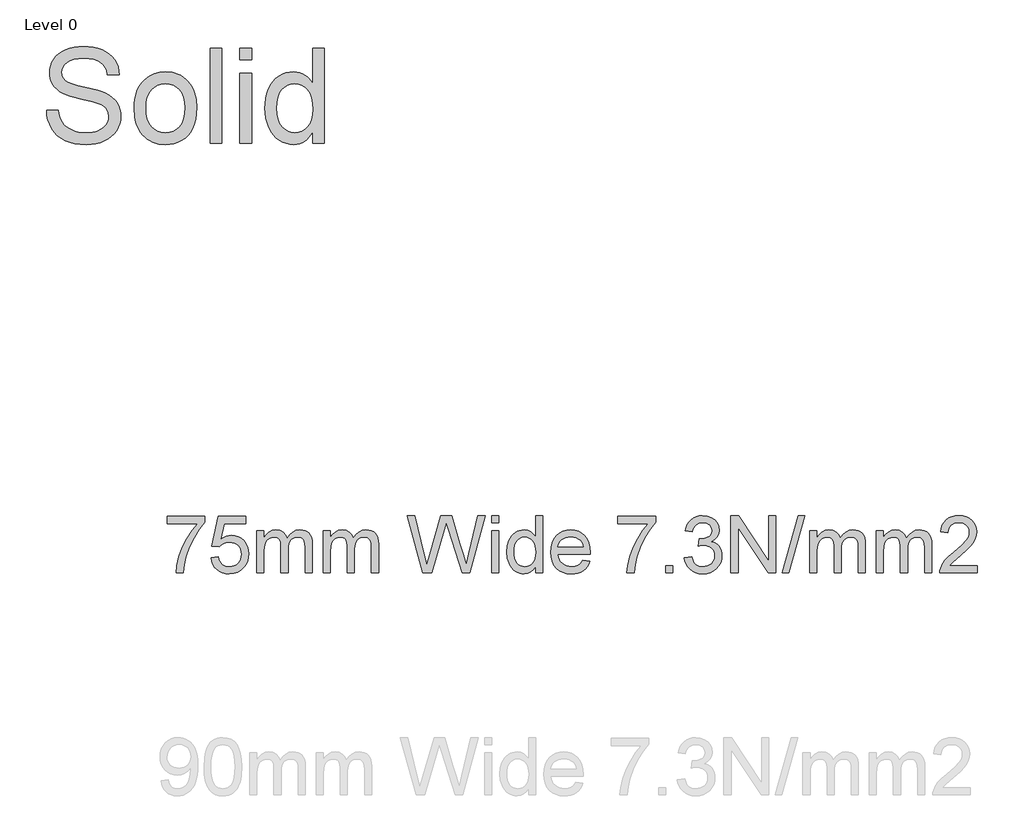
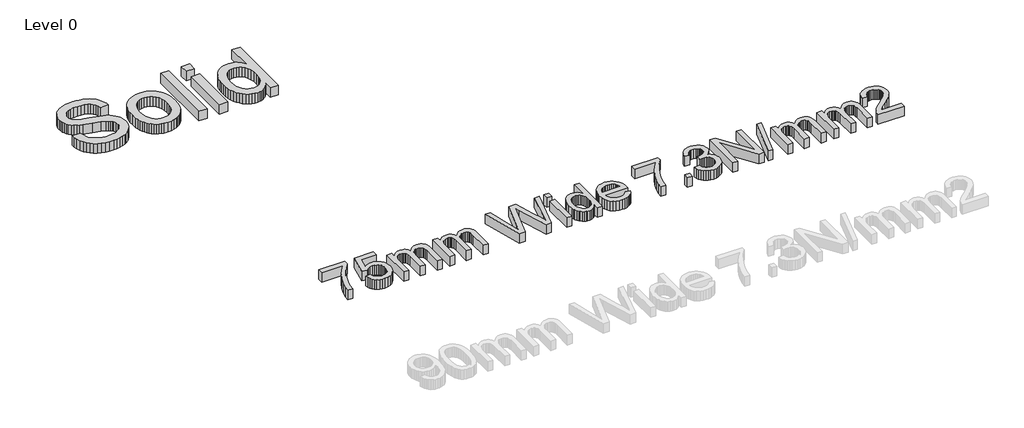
# One storey, part 7 of 14: 2 proxies.
"""IFC4 building model written with IfcOpenShell, lengths in millimetres."""

from ifc_helpers import new_model, si_unit, origin, origin_with_axes, place, context, project, spatial, polyline, outline, extrude, element, save

model = new_model("IFC4")

# Units and contexts
model_context = context("Model", 3, world=origin())
ifc_project = project(units=[si_unit("LENGTHUNIT", "METRE", prefix="MILLI")], contexts=[model_context])

# Site, building, storey
site = spatial("IfcSite", under=ifc_project)
building = spatial("IfcBuilding", under=site)
storey = spatial("IfcBuildingStorey", under=building, Name="Level 0", Elevation=0.0)

# Proxies
placement = place(None, origin())
element("IfcBuildingElementProxy", 1, Name="1000", ObjectType="1000", at=placement, inside=storey, context=model_context, shape_type="SweptSolid", body=[
    extrude(outline(polyline([(-39081.2208533, 24466.8068295), (-38958.7966109, 24466.8068295), (-38953.1924738, 24431.1719899), (-38944.7489073, 24398.8697438), (-38933.4659113, 24369.9000912), (-38919.3434859, 24344.2630322), (-38901.6643014, 24321.442986), (-38879.7110285, 24300.9243721), (-38853.483667, 24282.7071906), (-38822.9822169, 24266.7914413), (-38789.3275057, 24253.8720373), (-38753.6403609, 24244.6438916), (-38715.9207823, 24239.1070041), (-38676.1687699, 24237.261375), (-38607.9626857, 24242.8505677), (-38577.0427934, 24249.8370586), (-38548.245001, 24259.6181458), (-38522.2791659, 24271.8426368), (-38499.8551454, 24286.159339), (-38480.9729396, 24302.5682524), (-38465.6325484, 24321.0693769), (-38453.7592499, 24340.863189), (-38445.2783225, 24361.1501652), (-38440.189766, 24381.9303055), (-38438.4935806, 24403.2036098), (-38443.5746648, 24444.1810601), (-38458.8179177, 24479.5992064), (-38471.6401833, 24495.3132068), (-38489.7826431, 24509.8167135), (-38513.2452969, 24523.1097267), (-38542.0281449, 24535.1922462), (-38606.6774702, 24554.4107003), (-38720.284537, 24581.9382216), (-38837.2989191, 24612.8730582), (-38880.0024436, 24627.7800628), (-38912.1701904, 24642.3134583), (-38944.86099, 24661.8158553), (-38973.113313, 24683.5001297), (-38996.9271595, 24707.3662815), (-39016.3025294, 24733.4143106), (-39031.3141446, 24761.3752185), (-39042.0367269, 24790.9800066), (-39048.4702762, 24822.2286749), (-39050.6147927, 24855.1212235), (-39047.9621678, 24891.5780032), (-39040.0042931, 24926.8242893), (-39026.7411687, 24960.8600818), (-39008.1727946, 24993.6853807), (-38984.5083918, 25023.9626652), (-38955.9571814, 25050.3544148), (-38922.5191635, 25072.8606292), (-38884.1943381, 25091.4813087), (-38842.2753928, 25106.0744816), (-38798.0550152, 25116.4981766), (-38751.5332053, 25122.7523936), (-38702.7099631, 25124.8371326), (-38649.4482444, 25122.6552552), (-38599.4145086, 25116.1096231), (-38552.6087557, 25105.2002363), (-38509.0309859, 25089.9270947), (-38469.4881947, 25070.4246977), (-38434.7873779, 25046.8275445), (-38404.9285356, 25019.1356352), (-38379.9116677, 24987.3489697), (-38359.931051, 24952.3940987), (-38345.1809622, 24915.1975729), (-38335.6614013, 24875.7593923), (-38331.3723684, 24834.0795568), (-38453.7966109, 24834.0795568), (-38461.9861232, 24873.1441283), (-38476.2729366, 24907.1276155), (-38496.6570512, 24936.0300185), (-38523.1384669, 24959.8513371), (-38556.2103478, 24978.4720166), (-38596.365858, 24991.7725019), (-38643.6049975, 24999.7527931), (-38697.9277662, 25002.4128901), (-38753.9840813, 24999.7826818), (-38801.8807728, 24991.8920568), (-38841.6178407, 24978.7410151), (-38873.1952851, 24960.3295568), (-38897.2557136, 24938.1969515), (-38914.441734, 24913.8824687), (-38924.7533462, 24887.3861087), (-38928.1905503, 24858.7078712), (-38925.7546187, 24834.0347237), (-38918.4468239, 24811.6630085), (-38906.267166, 24791.5927256), (-38889.2156449, 24773.823875), (-38862.3755645, 24756.9965194), (-38820.1128987, 24739.9898314), (-38762.4276478, 24722.8038111), (-38689.3198116, 24705.4384583), (-38554.3423021, 24672.6206316), (-38506.8491085, 24657.7808766), (-38472.6862889, 24643.9872273), (-38435.1535149, 24623.0800599), (-38402.8961019, 24599.5725729), (-38375.9140499, 24573.4647663), (-38354.207359, 24544.7566401), (-38337.5219748, 24513.597638), (-38325.6038433, 24480.1372036), (-38318.4529644, 24444.3753369), (-38316.0693381, 24406.3120379), (-38318.8116292, 24368.0171012), (-38327.0385024, 24330.8429919), (-38340.7499578, 24294.7897101), (-38359.9459953, 24259.8572557), (-38384.2903668, 24227.3980937), (-38413.4468239, 24198.7646894), (-38447.4153668, 24173.9570426), (-38486.1959953, 24152.9751534), (-38528.66041, 24136.2897693), (-38573.6803111, 24124.3716378), (-38621.2556988, 24117.2207589), (-38671.386573, 24114.8371326), (-38734.0109367, 24117.4075634), (-38791.3300507, 24125.118856), (-38843.343915, 24137.9710104), (-38890.0525294, 24155.9640265), (-38931.7398371, 24179.1277931), (-38968.6897808, 24207.4921988), (-39000.9023607, 24241.0572438), (-39028.3775768, 24279.822928), (-39050.5101821, 24322.5339247), (-39066.69493, 24367.9349072), (-39076.9318204, 24416.0258755), (-39081.2208533, 24466.8068295)])), origin_with_axes(), (0.0, 0.0, 1.0), 150.0),
    extrude(outline(polyline([(-38178.3420654, 24489.761375), (-38176.6869769, 24537.9457455), (-38171.7217115, 24582.9096053), (-38163.4462691, 24624.6529544), (-38151.8606497, 24663.1757926), (-38136.9648533, 24698.4781201), (-38118.75888, 24730.5599368), (-38097.2427298, 24759.4212427), (-38072.4164025, 24785.0620379), (-38025.7600933, 24819.8973539), (-37974.2618097, 24844.7797225), (-37917.9215517, 24859.7091437), (-37856.7393192, 24864.6856174), (-37789.1982592, 24858.6256772), (-37757.8543205, 24851.0507519), (-37728.1281094, 24840.4458565), (-37700.0196259, 24826.810991), (-37673.52887, 24810.1461554), (-37648.6558416, 24790.4513497), (-37625.4005408, 24767.7265738), (-37604.3570061, 24742.3304927), (-37586.119276, 24714.6217709), (-37570.6873505, 24684.6004086), (-37558.0612297, 24652.2664058), (-37548.2409135, 24617.6197623), (-37541.2264019, 24580.6604783), (-37535.6147927, 24499.8039886), (-37538.0955574, 24434.2729458), (-37545.5378514, 24376.1244195), (-37557.9416748, 24325.3584098), (-37575.3070275, 24281.9749167), (-37597.4172163, 24244.5019201), (-37624.0555479, 24211.4674001), (-37655.2220222, 24182.8713566), (-37690.9166393, 24158.7137898), (-37729.7495731, 24139.5177522), (-37770.3309977, 24125.8062969), (-37812.6609131, 24117.5794236), (-37856.7393192, 24114.8371326), (-37925.2667073, 24120.8746562), (-37956.9468942, 24128.4215608), (-37986.904743, 24138.9872273), (-38015.1402536, 24152.5716555), (-38041.6534261, 24169.1748456), (-38066.4442604, 24188.7967976), (-38089.5127567, 24211.4375113), (-38110.3321259, 24236.9176546), (-38128.3755793, 24265.0578949), (-38143.6431167, 24295.8582322), (-38156.1347382, 24329.3186667), (-38165.8504439, 24365.4391981), (-38172.7902336, 24404.2198267), (-38178.3420654, 24489.761375)]), holes=[polyline([(-38055.917823, 24490.0004848), (-38052.3760083, 24430.6190484), (-38041.7505645, 24379.2029588), (-38024.0414913, 24335.752216), (-37999.2487889, 24300.2668201), (-37969.0910592, 24272.7019378), (-37935.2869044, 24253.0127363), (-37897.8363244, 24241.1992153), (-37856.7393192, 24237.261375), (-37815.8515351, 24241.2216319), (-37778.5503987, 24253.1024024), (-37744.8359101, 24272.9036868), (-37714.7080692, 24300.6254848), (-37689.9153668, 24336.4620734), (-37672.2062936, 24380.6077292), (-37661.5808497, 24433.0624522), (-37658.0390351, 24493.8262424), (-37661.6032663, 24551.3246888), (-37672.2959598, 24601.3957855), (-37690.1171157, 24644.0395325), (-37715.066734, 24679.2559299), (-37745.3066576, 24706.8208121), (-37778.9987297, 24726.5100137), (-37816.1429502, 24738.3235347), (-37856.7393192, 24742.261375), (-37897.8363244, 24738.338479), (-37935.2869044, 24726.5697912), (-37969.0910592, 24706.9553114), (-37999.2487889, 24679.4950398), (-38024.0414913, 24644.1142544), (-38041.7505645, 24600.7382334), (-38052.3760083, 24549.3669769), (-38055.917823, 24490.0004848)])]), origin_with_axes(), (0.0, 0.0, 1.0), 150.0),
    extrude(outline(polyline([(-37397.8875199, 24130.1401629), (-37397.8875199, 25109.5341023), (-37275.4632775, 25109.5341023), (-37275.4632775, 24130.1401629), (-37397.8875199, 24130.1401629)])), origin_with_axes(), (0.0, 0.0, 1.0), 150.0),
    extrude(outline(polyline([(-37091.8269139, 24130.1401629), (-37091.8269139, 24849.3825871), (-36969.4026715, 24849.3825871), (-36969.4026715, 24130.1401629), (-37091.8269139, 24130.1401629)])), origin_with_axes(), (0.0, 0.0, 1.0), 150.0),
    extrude(outline(polyline([(-37091.8269139, 24987.1098598), (-37091.8269139, 25109.5341023), (-36969.4026715, 25109.5341023), (-36969.4026715, 24987.1098598), (-37091.8269139, 24987.1098598)])), origin_with_axes(), (0.0, 0.0, 1.0), 150.0),
    extrude(outline(polyline([(-36341.978429, 24130.1401629), (-36341.978429, 24245.6302197), (-36359.3251013, 24214.9755899), (-36378.607069, 24188.4082441), (-36399.8243319, 24165.9281822), (-36422.9768902, 24147.5354043), (-36448.0647438, 24133.2299104), (-36475.0878928, 24123.0117005), (-36504.0463371, 24116.8807745), (-36534.9400768, 24114.8371326), (-36575.3496412, 24117.7961169), (-36614.0854366, 24126.6730701), (-36651.1474631, 24141.4679919), (-36686.5357207, 24162.1808826), (-36719.1443263, 24188.1915508), (-36747.8673968, 24218.8798054), (-36772.7049324, 24254.2456464), (-36793.6569328, 24294.2890738), (-36810.2900117, 24338.2479251), (-36822.1707823, 24385.3600374), (-36829.2992446, 24435.6254109), (-36831.6753987, 24489.0440454), (-36829.4860492, 24541.4838241), (-36822.9180005, 24591.4428381), (-36811.9712528, 24638.9210873), (-36796.6458059, 24683.918572), (-36776.9491322, 24725.1201877), (-36752.8887037, 24761.2108305), (-36724.4645204, 24792.1905002), (-36691.6765824, 24818.059197), (-36655.6830781, 24838.4582559), (-36617.6421956, 24853.0290123), (-36577.5539351, 24861.7714661), (-36535.4182965, 24864.6856174), (-36504.6030147, 24862.6008784), (-36475.5212794, 24856.3466614), (-36448.1730905, 24845.9229665), (-36422.558448, 24831.3297935), (-36398.9612948, 24813.4040271), (-36377.6655739, 24792.9825516), (-36358.6712853, 24770.0653671), (-36341.978429, 24744.6524735), (-36341.978429, 25109.5341023), (-36219.5541866, 25109.5341023), (-36219.5541866, 24130.1401629), (-36341.978429, 24130.1401629)]), holes=[polyline([(-36709.2511563, 24489.5222651), (-36705.7990079, 24430.1557731), (-36695.4425626, 24378.7845166), (-36678.1818204, 24335.4084956), (-36654.0167813, 24300.0277102), (-36625.1592115, 24272.5674386), (-36593.820877, 24252.9529588), (-36560.0017778, 24241.1842709), (-36523.7019139, 24237.261375), (-36487.2301898, 24241.0049386), (-36453.6128396, 24252.2356292), (-36422.8498631, 24270.9534471), (-36394.9412605, 24297.158392), (-36371.7700217, 24331.0596852), (-36355.2191369, 24372.8665478), (-36345.288606, 24422.5789797), (-36341.978429, 24480.196981), (-36345.3483835, 24543.3668141), (-36355.4582467, 24597.5401392), (-36372.3080189, 24642.7169562), (-36395.8976999, 24678.8972651), (-36424.4190215, 24706.6190632), (-36456.0637155, 24726.4203475), (-36490.8317819, 24738.3011181), (-36528.7232207, 24742.261375), (-36565.7404141, 24738.458034), (-36599.5595133, 24727.0480109), (-36630.1805183, 24708.0313057), (-36657.603429, 24681.4079185), (-36680.1993097, 24646.595019), (-36696.3392245, 24603.009777), (-36706.0231734, 24550.6521923), (-36709.2511563, 24489.5222651)])]), origin_with_axes(), (0.0, 0.0, 1.0), 150.0),
])
element("IfcBuildingElementProxy", 2, Name="600mm Arial", ObjectType="600mm Arial", at=placement, inside=storey, context=model_context, shape_type="SweptSolid", body=[
    extrude(outline(polyline([(-37839.6971625, 20211.5988724), (-37839.6971625, 20285.4450262), (-37452.0048548, 20285.4450262), (-37452.0048548, 20225.7334878), (-37507.2632682, 20155.7995935), (-37561.9808163, 20066.8632955), (-37610.2440375, 19967.0375743), (-37646.1394701, 19864.4354108), (-37663.735624, 19787.6685839), (-37673.5433163, 19703.9065647), (-37747.3894701, 19703.9065647), (-37739.4026913, 19780.0243531), (-37718.0385086, 19870.4931031), (-37683.8738451, 19966.3885358), (-37637.485624, 20058.7863724), (-37583.3269701, 20142.3140166), (-37525.8510086, 20211.5988724), (-37839.6971625, 20211.5988724)])), origin_with_axes(), (0.0, 0.0, 1.0), 150.0),
    extrude(outline(polyline([(-37387.3894701, 19860.8296416), (-37313.5433163, 19870.0604108), (-37308.0264894, 19846.3209277), (-37299.985624, 19825.7274781), (-37289.4207201, 19808.2800623), (-37276.3317778, 19793.9786801), (-37260.7458403, 19782.8413604), (-37242.6899509, 19774.886132), (-37222.1641096, 19770.112995), (-37199.1683163, 19768.5219493), (-37171.0433163, 19770.7349902), (-37146.235624, 19777.3741128), (-37124.7452394, 19788.4393171), (-37106.5721625, 19803.9306031), (-37092.1220423, 19823.081745), (-37081.8005278, 19845.1265166), (-37075.6076192, 19870.0649181), (-37073.5433163, 19897.8969493), (-37075.4769101, 19924.2010358), (-37081.2776913, 19947.5844493), (-37090.9456601, 19968.0471897), (-37104.4808163, 19985.589257), (-37121.9282322, 19999.6607714), (-37143.3329798, 20009.7118531), (-37168.6950591, 20015.7425022), (-37198.0144701, 20017.7527185), (-37233.8377875, 20014.5435839), (-37262.8462009, 20004.9161801), (-37286.0132682, 19990.1685839), (-37304.3125471, 19971.5988724), (-37378.1587009, 19980.8296416), (-37313.5433163, 20285.4450262), (-37027.3894701, 20285.4450262), (-37027.3894701, 20211.5988724), (-37253.8317778, 20211.5988724), (-37285.4183163, 20048.9065647), (-37259.3576192, 20067.5844493), (-37232.6659125, 20080.9257955), (-37205.3431961, 20088.9306031), (-37177.3894701, 20091.5988724), (-37141.4264293, 20088.2905791), (-37108.3930759, 20078.3656993), (-37078.2894101, 20061.824233), (-37051.1154317, 20038.6661801), (-37028.6199389, 20010.3068051), (-37012.5517298, 19978.1613724), (-37002.9108043, 19942.229882), (-36999.6971625, 19902.5123339), (-37002.5907923, 19864.2551224), (-37011.2716817, 19828.6661801), (-37025.7398307, 19795.745507), (-37045.9952394, 19765.4931031), (-37076.6803355, 19734.510531), (-37112.485624, 19712.3801224), (-37153.4111048, 19699.1018772), (-37199.4567778, 19694.6757955), (-37237.5652514, 19697.5198459), (-37271.9868259, 19706.0519974), (-37302.7215014, 19720.2722498), (-37329.7692778, 19740.1806031), (-37352.2737851, 19764.7854709), (-37369.3786528, 19793.0952666), (-37381.0838812, 19825.1099902), (-37387.3894701, 19860.8296416)])), origin_with_axes(), (0.0, 0.0, 1.0), 150.0),
    extrude(outline(polyline([(-36916.6202394, 19703.9065647), (-36916.6202394, 20137.7527185), (-36842.7740855, 20137.7527185), (-36842.7740855, 20066.3584878), (-36820.5625471, 20099.1529589), (-36792.0048548, 20124.8440647), (-36758.0745663, 20141.448632), (-36719.7452394, 20146.9834878), (-36678.6755278, 20141.3404589), (-36661.1965615, 20134.2866729), (-36645.7548548, 20124.4113724), (-36621.1635086, 20097.3140166), (-36605.0817778, 20061.1661801), (-36578.1647105, 20098.7112522), (-36547.4615855, 20125.5291608), (-36512.9724028, 20141.619906), (-36474.6971625, 20146.9834878), (-36445.134362, 20144.7524181), (-36419.1863451, 20138.0592089), (-36396.853112, 20126.9038604), (-36378.1346625, 20111.2863724), (-36363.337487, 20091.0264565), (-36352.7680759, 20065.9438243), (-36346.4264293, 20036.0384757), (-36344.3125471, 20001.3104108), (-36344.3125471, 19703.9065647), (-36418.1587009, 19703.9065647), (-36418.1587009, 19969.5796416), (-36419.8714413, 20006.4125743), (-36425.0096625, 20031.2382955), (-36434.6370663, 20048.2394974), (-36449.8173548, 20061.5988724), (-36469.3425951, 20070.2527185), (-36492.0048548, 20073.1373339), (-36512.9318379, 20071.2893772), (-36532.0108644, 20065.745507), (-36549.2419341, 20056.5057233), (-36564.6250471, 20043.5700262), (-36577.2767899, 20026.5598099), (-36586.313749, 20005.0964685), (-36591.7359245, 19979.1800022), (-36593.5433163, 19948.8104108), (-36593.5433163, 19703.9065647), (-36667.3894701, 19703.9065647), (-36667.3894701, 19977.8007955), (-36671.6623067, 20019.5556031), (-36684.4808163, 20049.339257), (-36694.3921745, 20059.7509156), (-36707.0349028, 20067.1878147), (-36722.4090014, 20071.6499541), (-36740.5144701, 20073.1373339), (-36768.9639894, 20069.1709878), (-36795.1779317, 20057.2719493), (-36816.8125471, 20037.7286801), (-36831.5240855, 20010.8296416), (-36839.9615855, 19973.5099301), (-36842.7740855, 19922.7046416), (-36842.7740855, 19703.9065647), (-36916.6202394, 19703.9065647)])), origin_with_axes(), (0.0, 0.0, 1.0), 150.0),
    extrude(outline(polyline([(-36233.5433163, 19703.9065647), (-36233.5433163, 20137.7527185), (-36159.6971625, 20137.7527185), (-36159.6971625, 20066.3584878), (-36137.485624, 20099.1529589), (-36108.9279317, 20124.8440647), (-36074.9976432, 20141.448632), (-36036.6683163, 20146.9834878), (-35995.5986048, 20141.3404589), (-35978.1196384, 20134.2866729), (-35962.6779317, 20124.4113724), (-35938.0865855, 20097.3140166), (-35922.0048548, 20061.1661801), (-35895.0877875, 20098.7112522), (-35864.3846625, 20125.5291608), (-35829.8954798, 20141.619906), (-35791.6202394, 20146.9834878), (-35762.0574389, 20144.7524181), (-35736.1094221, 20138.0592089), (-35713.7761889, 20126.9038604), (-35695.0577394, 20111.2863724), (-35680.2605639, 20091.0264565), (-35669.6911528, 20065.9438243), (-35663.3495062, 20036.0384757), (-35661.235624, 20001.3104108), (-35661.235624, 19703.9065647), (-35735.0817778, 19703.9065647), (-35735.0817778, 19969.5796416), (-35736.7945182, 20006.4125743), (-35741.9327394, 20031.2382955), (-35751.5601432, 20048.2394974), (-35766.7404317, 20061.5988724), (-35786.2656721, 20070.2527185), (-35808.9279317, 20073.1373339), (-35829.8549149, 20071.2893772), (-35848.9339413, 20065.745507), (-35866.165011, 20056.5057233), (-35881.548124, 20043.5700262), (-35894.1998668, 20026.5598099), (-35903.2368259, 20005.0964685), (-35908.6590014, 19979.1800022), (-35910.4663932, 19948.8104108), (-35910.4663932, 19703.9065647), (-35984.3125471, 19703.9065647), (-35984.3125471, 19977.8007955), (-35988.5853836, 20019.5556031), (-36001.4038932, 20049.339257), (-36011.3152514, 20059.7509156), (-36023.9579798, 20067.1878147), (-36039.3320783, 20071.6499541), (-36057.4375471, 20073.1373339), (-36085.8870663, 20069.1709878), (-36112.1010086, 20057.2719493), (-36133.735624, 20037.7286801), (-36148.4471625, 20010.8296416), (-36156.8846625, 19973.5099301), (-36159.6971625, 19922.7046416), (-36159.6971625, 19703.9065647), (-36233.5433163, 19703.9065647)])), origin_with_axes(), (0.0, 0.0, 1.0), 150.0),
    extrude(outline(polyline([(-35204.7452394, 19703.9065647), (-35365.8510086, 20294.6757955), (-35289.6971625, 20294.6757955), (-35196.235624, 19906.4065647), (-35167.3894701, 19786.5507955), (-35136.5240855, 19892.5604108), (-35019.4087009, 20294.6757955), (-34909.6490855, 20294.6757955), (-34824.5529317, 20003.1854108), (-34788.0986048, 19895.0123339), (-34761.235624, 19786.5507955), (-34733.2548548, 19902.9450262), (-34638.9279317, 20294.6757955), (-34562.7740855, 20294.6757955), (-34724.0240855, 19703.9065647), (-34802.9183163, 19703.9065647), (-34944.5529317, 20159.6757955), (-34964.3125471, 20223.2815647), (-34986.5240855, 20146.6950262), (-35115.610624, 19703.9065647), (-35204.7452394, 19703.9065647)])), origin_with_axes(), (0.0, 0.0, 1.0), 150.0),
    extrude(outline(polyline([(-34498.1587009, 20220.8296416), (-34498.1587009, 20294.6757955), (-34424.3125471, 20294.6757955), (-34424.3125471, 20220.8296416), (-34498.1587009, 20220.8296416)])), origin_with_axes(), (0.0, 0.0, 1.0), 150.0),
    extrude(outline(polyline([(-34498.1587009, 19703.9065647), (-34498.1587009, 20137.7527185), (-34424.3125471, 20137.7527185), (-34424.3125471, 19703.9065647), (-34498.1587009, 19703.9065647)])), origin_with_axes(), (0.0, 0.0, 1.0), 150.0),
    extrude(outline(polyline([(-34045.8510086, 19703.9065647), (-34045.8510086, 19773.5700262), (-34067.9453596, 19739.0538003), (-34094.7091817, 19714.3993531), (-34126.142475, 19699.6066849), (-34162.2452394, 19694.6757955), (-34186.6202394, 19696.4606512), (-34209.985624, 19701.8152185), (-34232.3413932, 19710.7394974), (-34253.6875471, 19723.2334878), (-34273.3570182, 19738.9230911), (-34290.6827394, 19757.4342089), (-34305.6647105, 19778.7668411), (-34318.3029317, 19802.9209878), (-34328.3359846, 19829.4369132), (-34335.5024509, 19857.854882), (-34341.235624, 19920.3969493), (-34335.9531721, 19982.1637762), (-34320.1058163, 20037.9450262), (-34308.2248067, 20062.7977906), (-34293.7115855, 20084.5676224), (-34276.5661528, 20103.2545214), (-34256.7885086, 20118.8584878), (-34235.0772706, 20131.1631753), (-34212.1310567, 20139.9522378), (-34187.9498668, 20145.2256753), (-34162.5337009, 20146.9834878), (-34126.4038932, 20141.9534397), (-34094.4567778, 20126.8632955), (-34067.3774509, 20103.7322858), (-34045.8510086, 20074.5796416), (-34045.8510086, 20294.6757955), (-33972.0048548, 20294.6757955), (-33972.0048548, 19703.9065647), (-34045.8510086, 19703.9065647)]), holes=[polyline([(-34267.3894701, 19920.6854108), (-34265.3071384, 19884.8756152), (-34259.0601432, 19853.8885358), (-34248.6484846, 19827.7241729), (-34234.0721625, 19806.3825262), (-34216.6653115, 19789.8185238), (-34197.7620663, 19777.9870935), (-34177.3624269, 19770.8882354), (-34155.4663932, 19768.5219493), (-34133.4666937, 19770.7800623), (-34113.188749, 19777.5544012), (-34094.6325591, 19788.8449661), (-34077.798124, 19804.651757), (-34063.821261, 19825.1009757), (-34053.8377875, 19850.3188243), (-34047.8477033, 19880.3053027), (-34045.8510086, 19915.0604108), (-34047.883761, 19953.1643772), (-34053.9820182, 19985.8416608), (-34064.1457802, 20013.0922618), (-34078.3750471, 20034.9161801), (-34095.5790735, 20051.6379349), (-34114.6671144, 20063.5820455), (-34135.6391697, 20070.7485118), (-34158.4952394, 20073.1373339), (-34180.8239653, 20070.8431632), (-34201.2236048, 20063.9606512), (-34219.6941576, 20052.4897979), (-34236.235624, 20036.4306031), (-34249.8654317, 20015.4315046), (-34259.6010086, 19989.1409397), (-34265.4423548, 19957.5589084), (-34267.3894701, 19920.6854108)])]), origin_with_axes(), (0.0, 0.0, 1.0), 150.0),
    extrude(outline(polyline([(-33557.485624, 19833.1373339), (-33485.0817778, 19823.9065647), (-33496.1830399, 19794.9071656), (-33511.1695182, 19769.3512762), (-33530.0412129, 19747.2388964), (-33552.798124, 19728.5700262), (-33579.2058764, 19713.7413003), (-33609.0300951, 19703.1493531), (-33642.2707802, 19696.7941849), (-33678.9279317, 19694.6757955), (-33724.7482442, 19698.331144), (-33765.5745663, 19709.2971897), (-33801.406898, 19727.5739325), (-33832.2452394, 19753.1613724), (-33857.0439173, 19785.34737), (-33874.7572586, 19823.4197858), (-33885.3852634, 19867.37862), (-33888.9279317, 19917.2238724), (-33885.3492057, 19968.7593291), (-33874.6130278, 20014.183007), (-33856.719398, 20053.494906), (-33831.6683163, 20086.6950262), (-33800.9111048, 20113.0712281), (-33765.8990855, 20131.9113724), (-33726.6322586, 20143.2154589), (-33683.110624, 20146.9834878), (-33640.9907322, 20143.2244733), (-33602.9002875, 20131.9474301), (-33568.8392899, 20113.152358), (-33538.8077394, 20086.839257), (-33514.2930158, 20053.7112522), (-33496.782499, 20014.4714685), (-33486.2761889, 19969.119906), (-33482.7740855, 19917.6565647), (-33483.2067778, 19897.7527185), (-33815.0817778, 19897.7527185), (-33810.8044341, 19868.2845695), (-33802.2993259, 19842.4762762), (-33789.5664533, 19820.3278387), (-33772.6058163, 19801.839257), (-33752.3549149, 19787.2629349), (-33729.751249, 19776.8512762), (-33704.7948187, 19770.604281), (-33677.485624, 19768.5219493), (-33638.1827394, 19772.3801224), (-33605.0817778, 19783.9546416), (-33578.1827394, 19803.9666608), (-33557.485624, 19833.1373339)]), holes=[polyline([(-33815.0817778, 19971.5988724), (-33556.6202394, 19971.5988724), (-33566.6082201, 20010.6132955), (-33575.1989653, 20025.9558435), (-33586.1875471, 20038.5219493), (-33606.3257682, 20053.6661801), (-33629.2404317, 20064.4834878), (-33654.9315375, 20070.9738724), (-33683.3990855, 20073.1373339), (-33709.3651312, 20071.4110719), (-33733.1767298, 20066.2322858), (-33754.8338812, 20057.6009757), (-33774.3365855, 20045.5171416), (-33790.7022706, 20030.5396777), (-33802.9483644, 20013.2274781), (-33811.0748668, 19993.5805431), (-33815.0817778, 19971.5988724)])]), origin_with_axes(), (0.0, 0.0, 1.0), 150.0),
    extrude(outline(polyline([(-33196.6202394, 20211.5988724), (-33196.6202394, 20285.4450262), (-32808.9279317, 20285.4450262), (-32808.9279317, 20225.7334878), (-32864.1863451, 20155.7995935), (-32918.9038932, 20066.8632955), (-32967.1671144, 19967.0375743), (-33003.0625471, 19864.4354108), (-33020.6587009, 19787.6685839), (-33030.4663932, 19703.9065647), (-33104.3125471, 19703.9065647), (-33096.3257682, 19780.0243531), (-33074.9615855, 19870.4931031), (-33040.7969221, 19966.3885358), (-32994.4087009, 20058.7863724), (-32940.2500471, 20142.3140166), (-32882.7740855, 20211.5988724), (-33196.6202394, 20211.5988724)])), origin_with_axes(), (0.0, 0.0, 1.0), 150.0),
    extrude(outline(polyline([(-32707.3894701, 19703.9065647), (-32707.3894701, 19777.7527185), (-32633.5433163, 19777.7527185), (-32633.5433163, 19703.9065647), (-32707.3894701, 19703.9065647)])), origin_with_axes(), (0.0, 0.0, 1.0), 150.0),
    extrude(outline(polyline([(-32513.5433163, 19860.8296416), (-32439.6971625, 19870.0604108), (-32423.1647105, 19823.6541608), (-32412.0183764, 19806.1030791), (-32398.9519701, 19792.3200262), (-32383.6680158, 19781.9083676), (-32365.8690375, 19774.4714685), (-32345.5550351, 19770.0093291), (-32322.7260086, 19768.5219493), (-32295.9712009, 19770.5682233), (-32272.1010086, 19776.7070455), (-32251.1154317, 19786.9384156), (-32233.0144701, 19801.2623339), (-32218.438148, 19818.6060839), (-32208.0264894, 19837.8969493), (-32201.7794942, 19859.1349301), (-32199.6971625, 19882.3200262), (-32201.7614653, 19904.4008556), (-32207.954374, 19924.4894974), (-32218.2758884, 19942.5859517), (-32232.7260086, 19958.6902185), (-32250.3582201, 19971.90987), (-32270.2260086, 19981.3524781), (-32292.329374, 19987.0180431), (-32316.6683163, 19988.9065647), (-32339.9976432, 19986.8873339), (-32368.4471625, 19980.8296416), (-32360.2260086, 20054.6757955), (-32348.3990855, 20053.8104108), (-32304.1562971, 20059.1108916), (-32264.6010086, 20075.0123339), (-32248.3209605, 20087.0375743), (-32236.6923548, 20101.9113724), (-32229.7151913, 20119.6337281), (-32227.3894701, 20140.2046416), (-32229.0751673, 20156.9038604), (-32234.1322586, 20172.0976705), (-32242.5607442, 20185.7860719), (-32254.360624, 20197.9690647), (-32268.8197586, 20207.9705671), (-32285.2260086, 20215.1144974), (-32323.8798548, 20220.8296416), (-32362.6058163, 20215.0604108), (-32379.3185567, 20207.8488724), (-32394.2644701, 20197.7527185), (-32407.0739653, 20184.7719493), (-32417.3774509, 20168.9065647), (-32425.1749269, 20150.1565647), (-32430.4663932, 20128.5219493), (-32504.3125471, 20137.7527185), (-32495.5595423, 20173.0081272), (-32482.5697586, 20204.0628147), (-32465.3431961, 20230.916781), (-32443.8798548, 20253.5700262), (-32418.8558163, 20271.5538003), (-32390.9471625, 20284.3993531), (-32360.1538932, 20292.1066849), (-32326.4760086, 20294.6757955), (-32280.0517298, 20289.6096897), (-32237.4135086, 20274.4113724), (-32201.4639894, 20250.433007), (-32175.1058163, 20219.026757), (-32158.9339413, 20182.8428628), (-32153.5433163, 20144.5315647), (-32158.6635086, 20108.8344493), (-32174.0240855, 20076.4546416), (-32199.4087009, 20048.870507), (-32234.6010086, 20027.5604108), (-32209.9916336, 20019.8620935), (-32188.3750471, 20008.8825262), (-32169.751249, 19994.6217089), (-32154.1202394, 19977.0796416), (-32141.7524509, 19956.6890166), (-32132.9183163, 19933.8825262), (-32127.6178355, 19908.6601705), (-32125.8510086, 19881.0219493), (-32129.3846625, 19843.558007), (-32139.985624, 19809.0507955), (-32157.6538932, 19777.5003147), (-32182.3894701, 19748.9065647), (-32212.5246865, 19725.1806031), (-32246.391874, 19708.2334878), (-32283.9910326, 19698.0652185), (-32325.3221625, 19694.6757955), (-32362.6779317, 19697.5694253), (-32396.7163932, 19706.2503147), (-32427.4375471, 19720.7184637), (-32454.8413932, 19740.9738724), (-32477.8191576, 19765.8266368), (-32495.2620663, 19794.0868531), (-32507.1701192, 19825.7545214), (-32513.5433163, 19860.8296416)])), origin_with_axes(), (0.0, 0.0, 1.0), 150.0),
    extrude(outline(polyline([(-32033.5433163, 19703.9065647), (-32033.5433163, 20294.6757955), (-31954.5048548, 20294.6757955), (-31645.8510086, 19826.6469493), (-31645.8510086, 20294.6757955), (-31572.0048548, 20294.6757955), (-31572.0048548, 19703.9065647), (-31651.0433163, 19703.9065647), (-31959.6971625, 20172.0796416), (-31959.6971625, 19703.9065647), (-32033.5433163, 19703.9065647)])), origin_with_axes(), (0.0, 0.0, 1.0), 150.0),
    extrude(outline(polyline([(-31507.3894701, 19703.9065647), (-31341.235624, 20294.6757955), (-31274.6010086, 20294.6757955), (-31440.7548548, 19703.9065647), (-31507.3894701, 19703.9065647)])), origin_with_axes(), (0.0, 0.0, 1.0), 150.0),
    extrude(outline(polyline([(-31221.235624, 19703.9065647), (-31221.235624, 20137.7527185), (-31147.3894701, 20137.7527185), (-31147.3894701, 20066.3584878), (-31125.1779317, 20099.1529589), (-31096.6202394, 20124.8440647), (-31062.6899509, 20141.448632), (-31024.360624, 20146.9834878), (-30983.2909125, 20141.3404589), (-30965.8119461, 20134.2866729), (-30950.3702394, 20124.4113724), (-30925.7788932, 20097.3140166), (-30909.6971625, 20061.1661801), (-30882.7800951, 20098.7112522), (-30852.0769701, 20125.5291608), (-30817.5877875, 20141.619906), (-30779.3125471, 20146.9834878), (-30749.7497466, 20144.7524181), (-30723.8017298, 20138.0592089), (-30701.4684966, 20126.9038604), (-30682.7500471, 20111.2863724), (-30667.9528716, 20091.0264565), (-30657.3834605, 20065.9438243), (-30651.0418139, 20036.0384757), (-30648.9279317, 20001.3104108), (-30648.9279317, 19703.9065647), (-30722.7740855, 19703.9065647), (-30722.7740855, 19969.5796416), (-30724.4868259, 20006.4125743), (-30729.6250471, 20031.2382955), (-30739.2524509, 20048.2394974), (-30754.4327394, 20061.5988724), (-30773.9579798, 20070.2527185), (-30796.6202394, 20073.1373339), (-30817.5472226, 20071.2893772), (-30836.626249, 20065.745507), (-30853.8573187, 20056.5057233), (-30869.2404317, 20043.5700262), (-30881.8921745, 20026.5598099), (-30890.9291336, 20005.0964685), (-30896.3513091, 19979.1800022), (-30898.1587009, 19948.8104108), (-30898.1587009, 19703.9065647), (-30972.0048548, 19703.9065647), (-30972.0048548, 19977.8007955), (-30976.2776913, 20019.5556031), (-30989.0962009, 20049.339257), (-30999.0075591, 20059.7509156), (-31011.6502875, 20067.1878147), (-31027.024386, 20071.6499541), (-31045.1298548, 20073.1373339), (-31073.579374, 20069.1709878), (-31099.7933163, 20057.2719493), (-31121.4279317, 20037.7286801), (-31136.1394701, 20010.8296416), (-31144.5769701, 19973.5099301), (-31147.3894701, 19922.7046416), (-31147.3894701, 19703.9065647), (-31221.235624, 19703.9065647)])), origin_with_axes(), (0.0, 0.0, 1.0), 150.0),
    extrude(outline(polyline([(-30538.1587009, 19703.9065647), (-30538.1587009, 20137.7527185), (-30464.3125471, 20137.7527185), (-30464.3125471, 20066.3584878), (-30442.1010086, 20099.1529589), (-30413.5433163, 20124.8440647), (-30379.6130278, 20141.448632), (-30341.2837009, 20146.9834878), (-30300.2139894, 20141.3404589), (-30282.735023, 20134.2866729), (-30267.2933163, 20124.4113724), (-30242.7019701, 20097.3140166), (-30226.6202394, 20061.1661801), (-30199.7031721, 20098.7112522), (-30169.0000471, 20125.5291608), (-30134.5108644, 20141.619906), (-30096.235624, 20146.9834878), (-30066.6728235, 20144.7524181), (-30040.7248067, 20138.0592089), (-30018.3915735, 20126.9038604), (-29999.673124, 20111.2863724), (-29984.8759485, 20091.0264565), (-29974.3065375, 20065.9438243), (-29967.9648908, 20036.0384757), (-29965.8510086, 20001.3104108), (-29965.8510086, 19703.9065647), (-30039.6971625, 19703.9065647), (-30039.6971625, 19969.5796416), (-30041.4099028, 20006.4125743), (-30046.548124, 20031.2382955), (-30056.1755278, 20048.2394974), (-30071.3558163, 20061.5988724), (-30090.8810567, 20070.2527185), (-30113.5433163, 20073.1373339), (-30134.4702995, 20071.2893772), (-30153.5493259, 20065.745507), (-30170.7803956, 20056.5057233), (-30186.1635086, 20043.5700262), (-30198.8152514, 20026.5598099), (-30207.8522105, 20005.0964685), (-30213.274386, 19979.1800022), (-30215.0817778, 19948.8104108), (-30215.0817778, 19703.9065647), (-30288.9279317, 19703.9065647), (-30288.9279317, 19977.8007955), (-30293.2007682, 20019.5556031), (-30306.0192778, 20049.339257), (-30315.930636, 20059.7509156), (-30328.5733644, 20067.1878147), (-30343.9474629, 20071.6499541), (-30362.0529317, 20073.1373339), (-30390.5024509, 20069.1709878), (-30416.7163932, 20057.2719493), (-30438.3510086, 20037.7286801), (-30453.0625471, 20010.8296416), (-30461.5000471, 19973.5099301), (-30464.3125471, 19922.7046416), (-30464.3125471, 19703.9065647), (-30538.1587009, 19703.9065647)])), origin_with_axes(), (0.0, 0.0, 1.0), 150.0),
    extrude(outline(polyline([(-29495.0817778, 19777.7527185), (-29495.0817778, 19703.9065647), (-29882.7740855, 19703.9065647), (-29881.1514894, 19729.9041608), (-29874.8413932, 19754.8200262), (-29856.6322586, 19794.6096897), (-29829.985624, 19833.2094493), (-29791.4399509, 19873.6120935), (-29737.5337009, 19918.8104108), (-29657.8462009, 19989.5916608), (-29610.0337009, 20041.839257), (-29596.0883884, 20063.1854108), (-29586.1274509, 20084.2431031), (-29580.1508884, 20105.0123339), (-29578.1587009, 20125.4931031), (-29580.0382081, 20144.7614325), (-29585.6767298, 20162.4702666), (-29595.0742658, 20178.6196056), (-29608.2308163, 20193.2094493), (-29624.4162129, 20205.2932834), (-29642.9002875, 20213.9245935), (-29663.6830399, 20219.1033796), (-29686.7644701, 20220.8296416), (-29711.0808764, 20219.1439445), (-29732.8281721, 20214.0868531), (-29752.0063572, 20205.6583676), (-29768.6154317, 20193.8584878), (-29782.0514293, 20179.0838483), (-29791.7103836, 20161.7310839), (-29797.5922947, 20141.8001945), (-29799.6971625, 20119.2911801), (-29873.5433163, 20128.5219493), (-29867.1926552, 20166.6439445), (-29855.6406721, 20199.9522378), (-29838.8873668, 20228.4468291), (-29816.9327394, 20252.1277185), (-29790.2815976, 20270.7425022), (-29759.438749, 20284.0387762), (-29724.4041937, 20292.0165406), (-29685.1779317, 20294.6757955), (-29645.6001072, 20291.7190647), (-29610.376249, 20282.8488724), (-29579.5063572, 20268.0652185), (-29552.9904317, 20247.3681031), (-29531.6938572, 20222.2899781), (-29516.4820182, 20194.3632955), (-29507.3549149, 20163.5880551), (-29504.3125471, 20129.964257), (-29507.5937971, 20094.6457474), (-29517.4375471, 20059.9402185), (-29534.907499, 20024.6397378), (-29561.0673548, 19987.5363724), (-29602.7680759, 19943.2394974), (-29666.860624, 19886.3584878), (-29751.8125471, 19815.3248339), (-29785.1298548, 19777.7527185), (-29495.0817778, 19777.7527185)])), origin_with_axes(), (0.0, 0.0, 1.0), 150.0),
])

save(model, "model.ifc")
